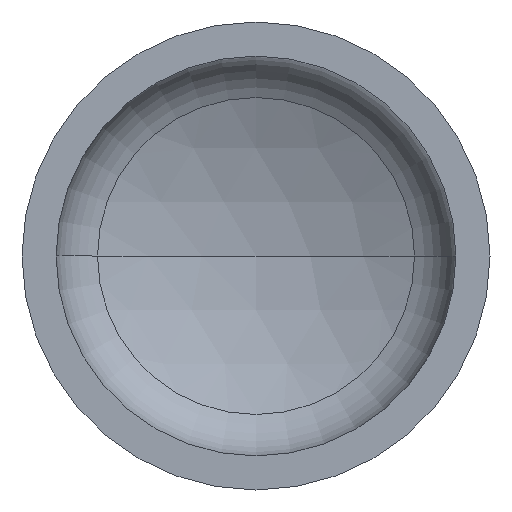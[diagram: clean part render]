
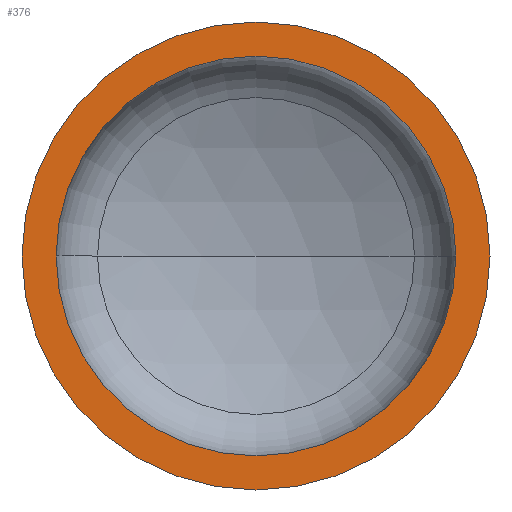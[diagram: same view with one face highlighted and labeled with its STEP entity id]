
A CAD part, front view. The second image highlights one B-rep face of the part: STEP entity #376.
In plain terms, the highlighted planar face has unit normal (0, -1, 0).
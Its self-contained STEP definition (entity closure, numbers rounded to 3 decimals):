
#1 = ORIENTED_EDGE ( 'NONE', *, *, #146, .F. ) ;
#3 = EDGE_LOOP ( 'NONE', ( #46, #10 ) ) ;
#7 = AXIS2_PLACEMENT_3D ( 'NONE', #178, #103, #231 ) ;
#10 = ORIENTED_EDGE ( 'NONE', *, *, #141, .T. ) ;
#13 = AXIS2_PLACEMENT_3D ( 'NONE', #130, #230, #388 ) ;
#26 = VERTEX_POINT ( 'NONE', #279 ) ;
#35 = AXIS2_PLACEMENT_3D ( 'NONE', #66, #171, #263 ) ;
#45 = EDGE_LOOP ( 'NONE', ( #1, #100 ) ) ;
#46 = ORIENTED_EDGE ( 'NONE', *, *, #382, .T. ) ;
#66 = CARTESIAN_POINT ( 'NONE',  ( 0., 0., 0. ) ) ;
#90 = AXIS2_PLACEMENT_3D ( 'NONE', #286, #190, #196 ) ;
#91 = AXIS2_PLACEMENT_3D ( 'NONE', #290, #289, #220 ) ;
#100 = ORIENTED_EDGE ( 'NONE', *, *, #353, .F. ) ;
#103 = DIRECTION ( 'NONE',  ( 0., 1., 0. ) ) ;
#106 = PLANE ( 'NONE',  #7 ) ;
#109 = VERTEX_POINT ( 'NONE', #239 ) ;
#115 = VERTEX_POINT ( 'NONE', #236 ) ;
#118 = CIRCLE ( 'NONE', #90, 700. ) ;
#124 = VERTEX_POINT ( 'NONE', #333 ) ;
#130 = CARTESIAN_POINT ( 'NONE',  ( 0., 0., 0. ) ) ;
#131 = FACE_OUTER_BOUND ( 'NONE', #3, .T. ) ;
#141 = EDGE_CURVE ( 'NONE', #26, #115, #118, .T. ) ;
#146 = EDGE_CURVE ( 'NONE', #109, #124, #198, .T. ) ;
#171 = DIRECTION ( 'NONE',  ( 0., -1., 0. ) ) ;
#178 = CARTESIAN_POINT ( 'NONE',  ( -700., 0., 0. ) ) ;
#190 = DIRECTION ( 'NONE',  ( 0., -1., 0. ) ) ;
#196 = DIRECTION ( 'NONE',  ( 1., 0., 0. ) ) ;
#198 = CIRCLE ( 'NONE', #91, 598. ) ;
#220 = DIRECTION ( 'NONE',  ( 1., 0., 0. ) ) ;
#221 = CIRCLE ( 'NONE', #35, 598. ) ;
#230 = DIRECTION ( 'NONE',  ( 0., -1., 0. ) ) ;
#231 = DIRECTION ( 'NONE',  ( -1., 0., 0. ) ) ;
#236 = CARTESIAN_POINT ( 'NONE',  ( 700., 0., 0. ) ) ;
#239 = CARTESIAN_POINT ( 'NONE',  ( 598., 0., 0. ) ) ;
#263 = DIRECTION ( 'NONE',  ( 1., 0., 0. ) ) ;
#279 = CARTESIAN_POINT ( 'NONE',  ( -700., 0., 0. ) ) ;
#286 = CARTESIAN_POINT ( 'NONE',  ( 0., 0., 0. ) ) ;
#289 = DIRECTION ( 'NONE',  ( 0., -1., 0. ) ) ;
#290 = CARTESIAN_POINT ( 'NONE',  ( 0., 0., 0. ) ) ;
#333 = CARTESIAN_POINT ( 'NONE',  ( -598., 0., 0. ) ) ;
#336 = FACE_BOUND ( 'NONE', #45, .T. ) ;
#353 = EDGE_CURVE ( 'NONE', #124, #109, #221, .T. ) ;
#376 = ADVANCED_FACE ( 'NONE', ( #336, #131 ), #106, .F. ) ;
#380 = CIRCLE ( 'NONE', #13, 700. ) ;
#382 = EDGE_CURVE ( 'NONE', #115, #26, #380, .T. ) ;
#388 = DIRECTION ( 'NONE',  ( 1., 0., 0. ) ) ;
